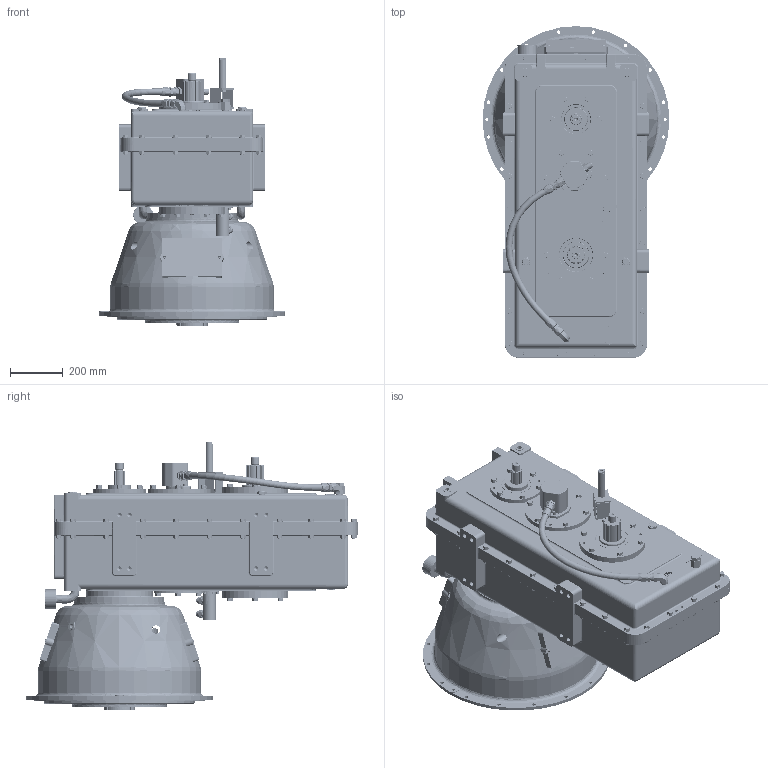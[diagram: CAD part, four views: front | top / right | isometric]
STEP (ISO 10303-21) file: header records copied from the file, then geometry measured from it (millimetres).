
FILE_DESCRIPTION (( 'STEP AP214' ), '1' );
FILE_NAME ('D240E203002.STEP', '2017-10-11T14:51:24', ( 'MikeMihajlovic' ), ( 'Microsoft' ), 'SwSTEP 2.0', 'SolidWorks 2017', '' );
FILE_SCHEMA (( 'AUTOMOTIVE_DESIGN' ));
Length unit declared in the file: inch
Products named in the file (78): D240033; HHCSZ_50-13X2_75_2; D240028; RHSKCS_25-20X_50_5; PPSKG_38-18_6; LWZ_50_7; SHCS_38-16X_87_1; CV9_00X6_00; HHCSZ_50-13X2_00; HNZ_50-13_6; JNZ_63-18_1; OS4_500X5_501-2_1; PPSKG1_00-11_5_8; D240001D_AF0; JNZ_31-24_1; SHCS_63-11X1_50_1; AVBF-16_8; DWL_50X1_25_4; AC-092-D; D240050; STEL1_00NPT90_8; D240024A; D240018_ASM_1; D240051; SHCS_50-13X2_25_2; D240018-4_1; D17-0-SP318; HA-12-12-12-14_D240E203002; PPSKG_50-14_3; D240E203002; D240018-3_1; D240043; 20621-12-12; ME12-CTX-S_7; D240018-1_AF0_1; D240044; .75IDX12_D240E203002_OUTPUT; STP12P5ON-S_1; D240018-2_AF0_1; D240030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
Assembly tree (268 placements, depth 3):
  D240E203002
    D240001E_ASM
      D240024A
      DWL_50X1_25_4  x2
      D240001D_AF0
      HNZ_50-13_6  x26
      LWZ_50_7  x26
      HHCSZ_50-13X2_75_2  x26
    D240022_2  x4
    SHCS_25-20X_50_7  x8
    SHK23005_2  x6
    SHK23007_2  x6
    SHK23020_2  x2
    SHK22405_1  x3
    SHK22407_1  x3
    SHK22420_1
    D240030
    D240044
    D240043
    D17-0-SP318
    D240051
    D240050
    SHCS_63-11X1_50_1  x6
    OS4_500X5_501-2_1
    CV9_00X6_00  x2
    RHSKCS_25-20X_50_5  x4
    D240047
    D144088_7
    SHCS_25-20X1_00_7  x2
    D240049
    LPGHP2A-S-13-S1
    LWZ_50_7  x30
    HHCSZ_50-13X1_25_5  x6
    HHCSZ_50-13X1_50_2  x12
    HA-12-12-12-33_5
    SG_75NPT-01_3  x2
    FSTA_75NPT-1_06-12_1
    STP12P5ON-S_1
    ME12-CTX-S_7
    PPSKG_50-14_3
    SHCS_50-13X2_25_2  x6
    STEL1_00NPT90_8  x2
    AVBF-16_8
    PPSKG1_00-11_5_8  x3
    HHCSZ_50-13X2_00  x6
    PPSKG_38-18_6  x2
    D240033
    D168071_1  x2
    D240034
    JNZ_25-28_1
    SSCN_25-28X_75_1
    D168030_1
    D240048
    OS3_938X4_999-2_2
    HHCSZ_50-13X1_75_1  x6
    OS1_000X1_437-2_1
    D240018_ASM_1
      D240018-2_AF0_1
      D240018-1_AF0_1
      D240018-3_1  x2
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Bounding box: 711.2 x 1263.65 x 1021 mm (x, y, z)
Volume: 29467881.8 mm3; surface area: 13405217 mm2
Topology: 231 solids, 554 shells, 13765 faces, 36063 edges, 22993 vertices
Faces by surface type: cylinder 5857, plane 4351, bspline 1738, cone 1684, torus 135
Full cylindrical faces by diameter (mm): 19.685 x1
Entity records: 510800 total; most frequent: CARTESIAN_POINT 262055, ORIENTED_EDGE 52426, DIRECTION 49021, EDGE_CURVE 26492, AXIS2_PLACEMENT_3D 18818, VERTEX_POINT 17199, VECTOR 11385, LINE 11385
